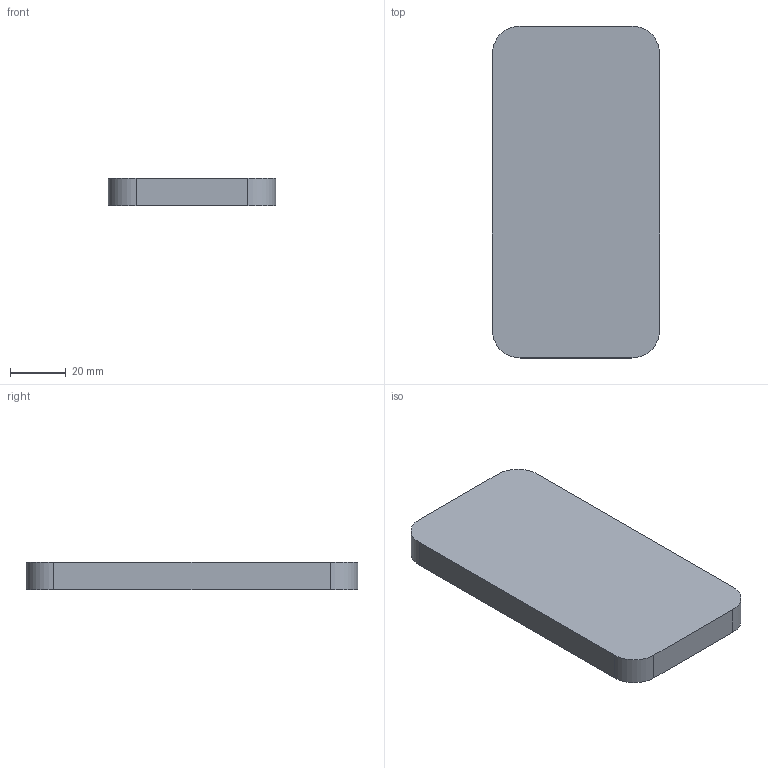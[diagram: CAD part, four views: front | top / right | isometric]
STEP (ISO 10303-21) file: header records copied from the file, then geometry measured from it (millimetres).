
FILE_DESCRIPTION (( 'STEP AP214' ), '1' );
FILE_NAME ('04620.STEP', '2014-01-17T10:53:30', ( 'ameg' ), ( 'Microsoft' ), 'SwSTEP 2.0', 'SolidWorks 2012', '' );
FILE_SCHEMA (( 'AUTOMOTIVE_DESIGN' ));
Length unit declared in the file: millimetre
Products named in the file (1): 04620
Bounding box: 60 x 119 x 10 mm (x, y, z)
Volume: 70530.2 mm3; surface area: 17579.1 mm2
Topology: 1 solids, 1 shells, 248 faces, 636 edges, 424 vertices
Faces by surface type: plane 151, bspline 93, cylinder 4
Entity records: 13738 total; most frequent: CARTESIAN_POINT 8296, ORIENTED_EDGE 1272, DIRECTION 770, EDGE_CURVE 636, LINE 442, VECTOR 442, VERTEX_POINT 424, EDGE_LOOP 282
